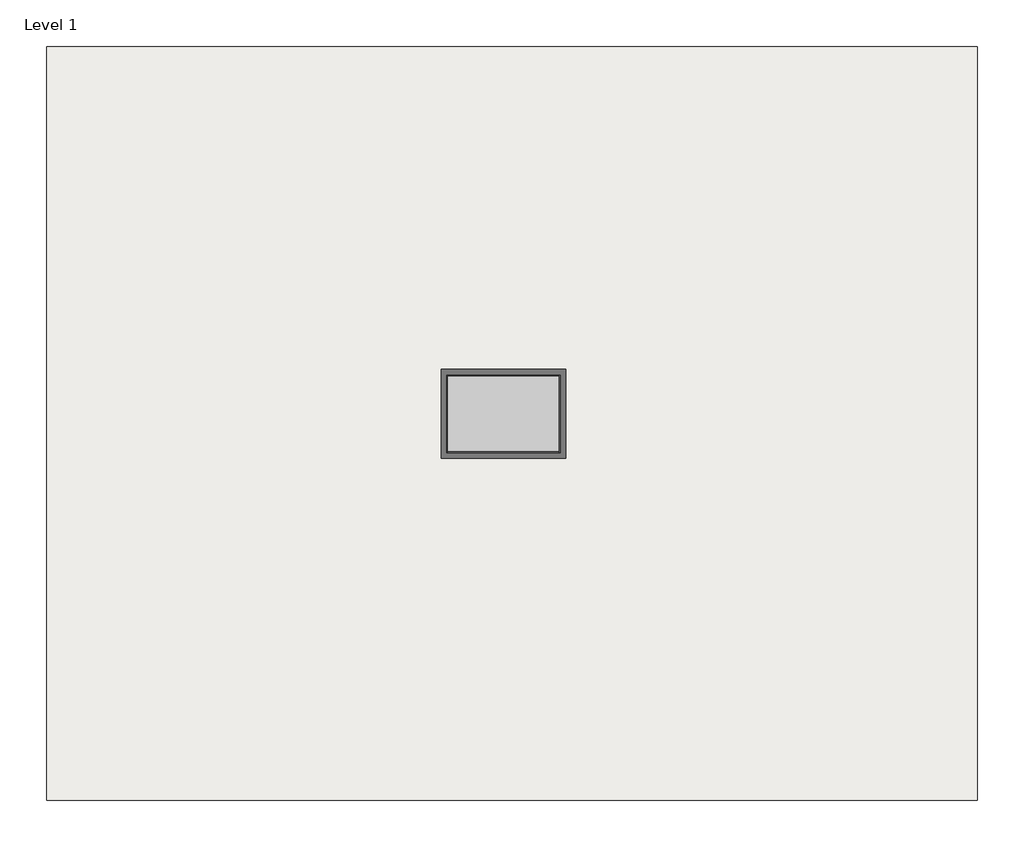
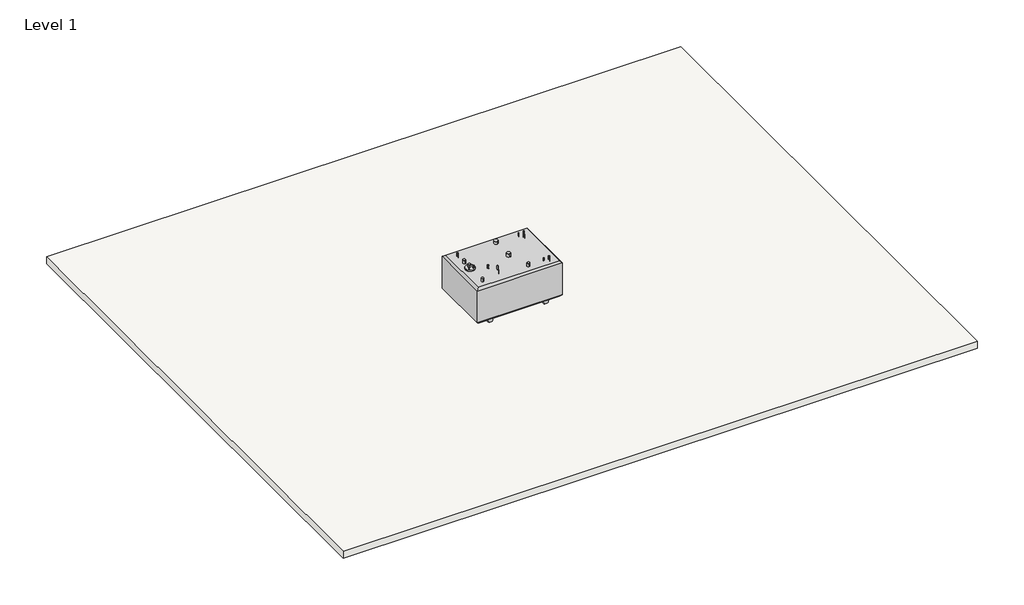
# One storey: 1 proxy, 1 slab.
"""IFC4 building model written with IfcOpenShell, lengths in millimetres."""

from ifc_helpers import new_model, si_unit, frame, origin, place, context, project, spatial, polyline, outline, extrude, transform, mapped, element, save
from components import generic_models_5e624025

model = new_model("IFC4")

# Units and contexts
model_context = context("Model", 3, world=origin())
ifc_project = project(units=[si_unit("LENGTHUNIT", "METRE", prefix="MILLI")], contexts=[model_context])

# Site, building, storey
site = spatial("IfcSite", under=ifc_project)
building = spatial("IfcBuilding", under=site)
storey = spatial("IfcBuildingStorey", under=building, Name="Level 1", Elevation=0.0)

# Proxy
placement = place(None, origin())
generic_models_shape = generic_models_5e624025(model_context)
element("IfcBuildingElementProxy", 1, Name="Convault Tank Family 88153084 : Convault Tank Family 88153084", ObjectType="Convault Tank Family 88153084 : Convault Tank Family 88153084", at=placement, inside=storey, context=model_context, shape_type="MappedRepresentation", body=[
    mapped(generic_models_shape, transform((-592.2061214, 2248.5766526, 0.0), x_axis=(1.0, 0.0, 0.0), y_axis=(0.0, 1.0, 0.0), z_axis=(0.0, 0.0, 1.0))),
])

# Slab
element("IfcSlab", 2, ObjectType="Generic - 12\"", at=placement, inside=storey, context=model_context, shape_type="SweptSolid", body=[
    extrude(outline(polyline([(12446.9560906, 12349.2639914), (12446.9560906, -8377.1360086), (-13156.2439094, -8377.1360086), (-13156.2439094, 12349.2639914), (12446.9560906, 12349.2639914)])), frame((0.0, 0.0, -304.8), z_axis=(0.0, 0.0, 1.0), x_axis=(1.0, 0.0, 0.0)), (0.0, 0.0, 1.0), 304.8),
])

save(model, "model.ifc")
